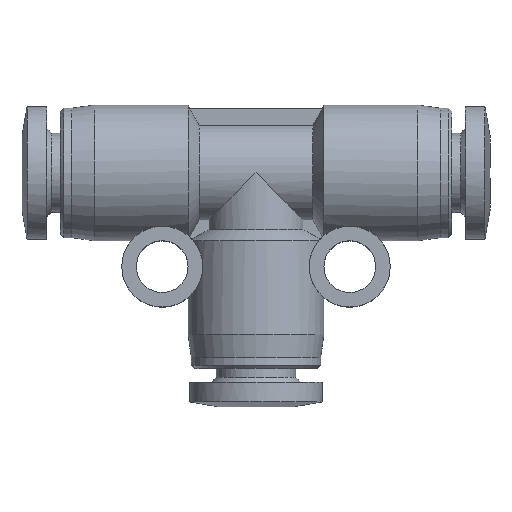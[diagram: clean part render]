
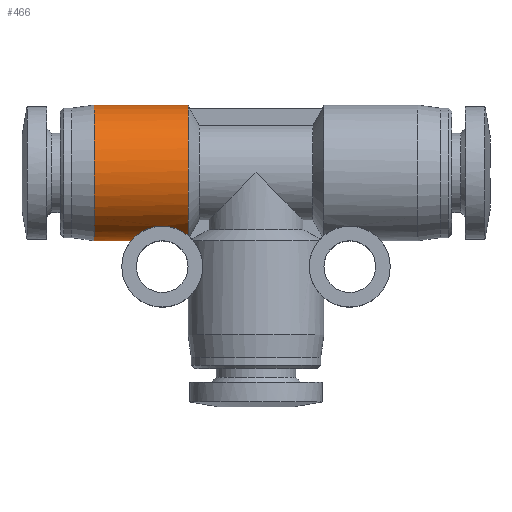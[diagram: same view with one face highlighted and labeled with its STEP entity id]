
A CAD part, top view. The second image highlights one B-rep face of the part: STEP entity #466.
In plain terms, the highlighted cylindrical face has radius 4.2 mm (diameter 8.4 mm), a partial arc.
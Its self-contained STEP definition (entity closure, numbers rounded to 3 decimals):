
#112 = CARTESIAN_POINT ( 'NONE',  ( -4.58, -3.618, 2.133 ) ) ;
#174 = AXIS2_PLACEMENT_3D ( 'NONE', #4198, #1829, #1071 ) ;
#199 = CARTESIAN_POINT ( 'NONE',  ( -5.882, -3.301, 2.597 ) ) ;
#446 = DIRECTION ( 'NONE',  ( 1., 0., 0. ) ) ;
#462 = DIRECTION ( 'NONE',  ( 1., 0., 0. ) ) ;
#464 = CARTESIAN_POINT ( 'NONE',  ( -7.481, -3.95, 1.428 ) ) ;
#466 = ADVANCED_FACE ( 'NONE', ( #2175 ), #4217, .T. ) ;
#540 = B_SPLINE_CURVE_WITH_KNOTS ( 'NONE', 3,
 ( #2907, #4325, #2215, #3629, #464, #1199, #2953, #4371, #3280, #1529, #4350, #2933, #4007, #900, #1615, #4073, #4444, #3723, #552, #1958, #3025, #3373, #199, #2654, #2311, #1920, #4015, #3968, #1872, #2961, #814, #2614, #3263, #4378, #1849, #1487, #1533, #112, #2545, #3635, #3241, #2202, #3330, #1205, #2275, #1830 ),
 .UNSPECIFIED., .F., .F.,
 ( 4, 2, 2, 1, 1, 1, 2, 2, 2, 2, 1, 1, 2, 2, 2, 1, 2, 2, 2, 1, 1, 2, 2, 2, 1, 1, 2, 4 ),
 ( 0.5, 0.625, 0.627, 0.629, 0.633, 0.641, 0.656, 0.687, 0.75, 0.754, 0.758, 0.766, 0.781, 0.812, 0.82, 0.828, 0.844, 0.875, 0.879, 0.883, 0.891, 0.906, 0.937, 0.941, 0.945, 0.953, 0.969, 1. ),
 .UNSPECIFIED. ) ;
#552 = CARTESIAN_POINT ( 'NONE',  ( -6.431, -3.379, 2.494 ) ) ;
#608 = CARTESIAN_POINT ( 'NONE',  ( -10., 4.2, 0. ) ) ;
#612 = AXIS2_PLACEMENT_3D ( 'NONE', #1202, #2542, #2587 ) ;
#814 = CARTESIAN_POINT ( 'NONE',  ( -5.155, -3.385, 2.486 ) ) ;
#856 = AXIS2_PLACEMENT_3D ( 'NONE', #3627, #462, #1865 ) ;
#866 = ORIENTED_EDGE ( 'NONE', *, *, #2785, .F. ) ;
#900 = CARTESIAN_POINT ( 'NONE',  ( -6.82, -3.509, 2.311 ) ) ;
#929 = VECTOR ( 'NONE', #446, 1000. ) ;
#1071 = DIRECTION ( 'NONE',  ( 0., 1., 0. ) ) ;
#1120 = VERTEX_POINT ( 'NONE', #3013 ) ;
#1137 = CARTESIAN_POINT ( 'NONE',  ( -7.1, 4.2, 0. ) ) ;
#1199 = CARTESIAN_POINT ( 'NONE',  ( -7.475, -3.944, 1.443 ) ) ;
#1202 = CARTESIAN_POINT ( 'NONE',  ( -4.2, 0., 0. ) ) ;
#1205 = CARTESIAN_POINT ( 'NONE',  ( -4.312, -3.79, 1.814 ) ) ;
#1282 = VERTEX_POINT ( 'NONE', #4197 ) ;
#1357 = VERTEX_POINT ( 'NONE', #3923 ) ;
#1487 = CARTESIAN_POINT ( 'NONE',  ( -4.769, -3.52, 2.293 ) ) ;
#1529 = CARTESIAN_POINT ( 'NONE',  ( -7.357, -3.843, 1.695 ) ) ;
#1533 = CARTESIAN_POINT ( 'NONE',  ( -4.677, -3.564, 2.224 ) ) ;
#1552 = LINE ( 'NONE', #1137, #929 ) ;
#1612 = VERTEX_POINT ( 'NONE', #3951 ) ;
#1615 = CARTESIAN_POINT ( 'NONE',  ( -6.616, -3.437, 2.414 ) ) ;
#1640 = DIRECTION ( 'NONE',  ( 1., 0., 0. ) ) ;
#1654 = ORIENTED_EDGE ( 'NONE', *, *, #3982, .F. ) ;
#1829 = DIRECTION ( 'NONE',  ( 1., 0., 0. ) ) ;
#1830 = CARTESIAN_POINT ( 'NONE',  ( -4.2, -3.879, 1.61 ) ) ;
#1849 = CARTESIAN_POINT ( 'NONE',  ( -4.917, -3.46, 2.381 ) ) ;
#1865 = DIRECTION ( 'NONE',  ( 0., 1., 0. ) ) ;
#1872 = CARTESIAN_POINT ( 'NONE',  ( -5.303, -3.347, 2.537 ) ) ;
#1920 = CARTESIAN_POINT ( 'NONE',  ( -5.701, -3.301, 2.597 ) ) ;
#1958 = CARTESIAN_POINT ( 'NONE',  ( -6.343, -3.359, 2.522 ) ) ;
#2024 = EDGE_CURVE ( 'NONE', #3533, #1612, #3072, .T. ) ;
#2175 = FACE_OUTER_BOUND ( 'NONE', #3154, .T. ) ;
#2202 = CARTESIAN_POINT ( 'NONE',  ( -4.461, -3.688, 2.01 ) ) ;
#2215 = CARTESIAN_POINT ( 'NONE',  ( -7.643, -4.098, 1.014 ) ) ;
#2275 = CARTESIAN_POINT ( 'NONE',  ( -4.253, -3.835, 1.716 ) ) ;
#2311 = CARTESIAN_POINT ( 'NONE',  ( -5.792, -3.3, 2.598 ) ) ;
#2380 = CARTESIAN_POINT ( 'NONE',  ( -7.1, -4.2, 0. ) ) ;
#2467 = ORIENTED_EDGE ( 'NONE', *, *, #4465, .T. ) ;
#2542 = DIRECTION ( 'NONE',  ( 1., 0., 0. ) ) ;
#2545 = CARTESIAN_POINT ( 'NONE',  ( -4.571, -3.623, 2.125 ) ) ;
#2587 = DIRECTION ( 'NONE',  ( 0., 1., 0. ) ) ;
#2614 = CARTESIAN_POINT ( 'NONE',  ( -5.127, -3.392, 2.476 ) ) ;
#2654 = CARTESIAN_POINT ( 'NONE',  ( -5.853, -3.3, 2.598 ) ) ;
#2743 = CIRCLE ( 'NONE', #612, 4.2 ) ;
#2785 = EDGE_CURVE ( 'NONE', #1282, #1357, #2743, .T. ) ;
#2907 = CARTESIAN_POINT ( 'NONE',  ( -7.721, -4.2, 0. ) ) ;
#2933 = CARTESIAN_POINT ( 'NONE',  ( -7.202, -3.727, 1.938 ) ) ;
#2953 = CARTESIAN_POINT ( 'NONE',  ( -7.466, -3.936, 1.466 ) ) ;
#2961 = CARTESIAN_POINT ( 'NONE',  ( -5.167, -3.382, 2.491 ) ) ;
#3013 = CARTESIAN_POINT ( 'NONE',  ( -7.721, -4.2, 0. ) ) ;
#3025 = CARTESIAN_POINT ( 'NONE',  ( -6.164, -3.323, 2.568 ) ) ;
#3072 = CIRCLE ( 'NONE', #856, 4.2 ) ;
#3154 = EDGE_LOOP ( 'NONE', ( #4233, #2467, #3557, #866, #1654 ) ) ;
#3241 = CARTESIAN_POINT ( 'NONE',  ( -4.524, -3.65, 2.078 ) ) ;
#3263 = CARTESIAN_POINT ( 'NONE',  ( -5.087, -3.404, 2.46 ) ) ;
#3280 = CARTESIAN_POINT ( 'NONE',  ( -7.399, -3.877, 1.616 ) ) ;
#3330 = CARTESIAN_POINT ( 'NONE',  ( -4.41, -3.722, 1.947 ) ) ;
#3373 = CARTESIAN_POINT ( 'NONE',  ( -6.041, -3.308, 2.587 ) ) ;
#3444 = VECTOR ( 'NONE', #1640, 1000. ) ;
#3533 = VERTEX_POINT ( 'NONE', #608 ) ;
#3557 = ORIENTED_EDGE ( 'NONE', *, *, #3871, .T. ) ;
#3627 = CARTESIAN_POINT ( 'NONE',  ( -10., 0., 0. ) ) ;
#3629 = CARTESIAN_POINT ( 'NONE',  ( -7.485, -3.953, 1.42 ) ) ;
#3635 = CARTESIAN_POINT ( 'NONE',  ( -4.552, -3.634, 2.107 ) ) ;
#3723 = CARTESIAN_POINT ( 'NONE',  ( -6.53, -3.409, 2.454 ) ) ;
#3871 = EDGE_CURVE ( 'NONE', #1120, #1357, #540, .T. ) ;
#3923 = CARTESIAN_POINT ( 'NONE',  ( -4.2, -3.879, 1.61 ) ) ;
#3951 = CARTESIAN_POINT ( 'NONE',  ( -10., -4.2, 0. ) ) ;
#3968 = CARTESIAN_POINT ( 'NONE',  ( -5.426, -3.325, 2.566 ) ) ;
#3982 = EDGE_CURVE ( 'NONE', #3533, #1282, #1552, .T. ) ;
#4007 = CARTESIAN_POINT ( 'NONE',  ( -6.987, -3.592, 2.184 ) ) ;
#4015 = CARTESIAN_POINT ( 'NONE',  ( -5.609, -3.307, 2.59 ) ) ;
#4073 = CARTESIAN_POINT ( 'NONE',  ( -6.601, -3.432, 2.421 ) ) ;
#4097 = LINE ( 'NONE', #2380, #3444 ) ;
#4197 = CARTESIAN_POINT ( 'NONE',  ( -4.2, 4.2, 0. ) ) ;
#4198 = CARTESIAN_POINT ( 'NONE',  ( -7.1, 0., 0. ) ) ;
#4217 = CYLINDRICAL_SURFACE ( 'NONE', #174, 4.2 ) ;
#4233 = ORIENTED_EDGE ( 'NONE', *, *, #2024, .T. ) ;
#4325 = CARTESIAN_POINT ( 'NONE',  ( -7.721, -4.2, 0.539 ) ) ;
#4350 = CARTESIAN_POINT ( 'NONE',  ( -7.268, -3.774, 1.847 ) ) ;
#4371 = CARTESIAN_POINT ( 'NONE',  ( -7.444, -3.917, 1.517 ) ) ;
#4378 = CARTESIAN_POINT ( 'NONE',  ( -4.993, -3.433, 2.421 ) ) ;
#4444 = CARTESIAN_POINT ( 'NONE',  ( -6.573, -3.422, 2.435 ) ) ;
#4465 = EDGE_CURVE ( 'NONE', #1612, #1120, #4097, .T. ) ;
